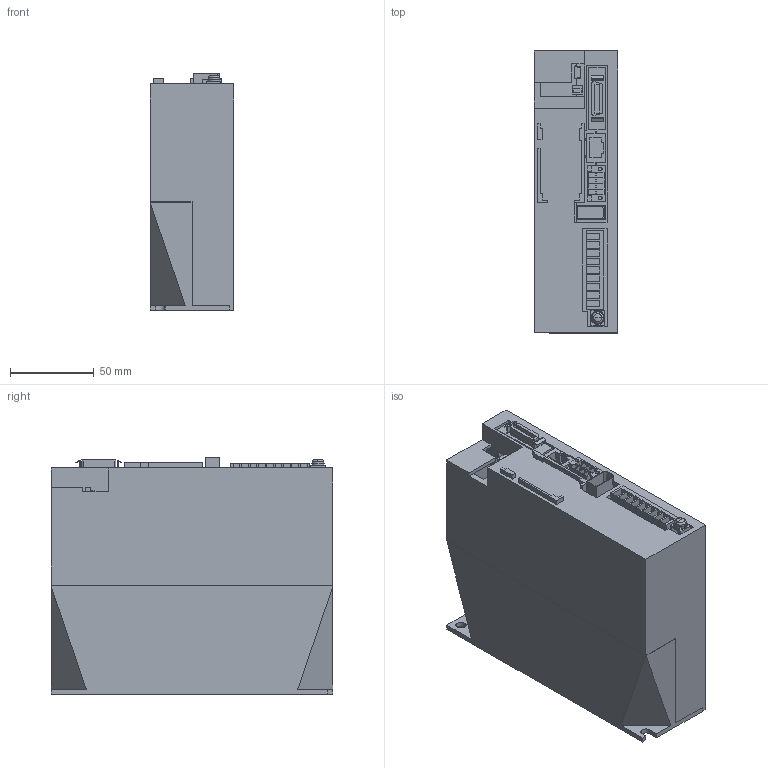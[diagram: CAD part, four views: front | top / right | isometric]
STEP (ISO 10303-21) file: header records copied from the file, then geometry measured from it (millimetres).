
FILE_DESCRIPTION((''),'2;1');
FILE_NAME('MR-JE-10CA_ASM','2017-02-28T',('ES20962'),(''),'PRO/ENGINEER BY PARAMETRIC TECHNOLOGY CORPORATION, 2014310','PRO/ENGINEER BY PARAMETRIC TECHNOLOGY CORPORATION, 2014310','');
FILE_SCHEMA(('CONFIG_CONTROL_DESIGN'));
Length unit declared in the file: millimetre
Products named in the file (12): JE-10C-CHASSIS; JE-10C-CASE; JEC-CN1; JEC-CN3; JEC-CN6; J4A-CN2; JEA-CNP1; JEA-ARTH; SW-PW-P-NA-M4X12-PE; JEC-CN4; JEC-CN5; MR-JE-10CA_ASM
Assembly tree (11 placements, depth 2):
  MR-JE-10CA_ASM
    JE-10C-CHASSIS
    JE-10C-CASE
    JEC-CN1
    JEC-CN3
    JEC-CN6
    J4A-CN2
    JEA-CNP1
    JEA-ARTH
    SW-PW-P-NA-M4X12-PE
    JEC-CN4
    JEC-CN5
Bounding box: 50 x 168 x 141.15 mm (x, y, z)
Volume: 411263 mm3; surface area: 156807.6 mm2
Topology: 11 solids, 11 shells, 394 faces, 1031 edges, 684 vertices
Faces by surface type: plane 343, cylinder 45, cone 2, torus 2, sphere 2
Entity records: 12217 total; most frequent: CARTESIAN_POINT 2130, ORIENTED_EDGE 2058, DIRECTION 1963, EDGE_CURVE 1029, VECTOR 929, LINE 929, VERTEX_POINT 684, AXIS2_PLACEMENT_3D 517
